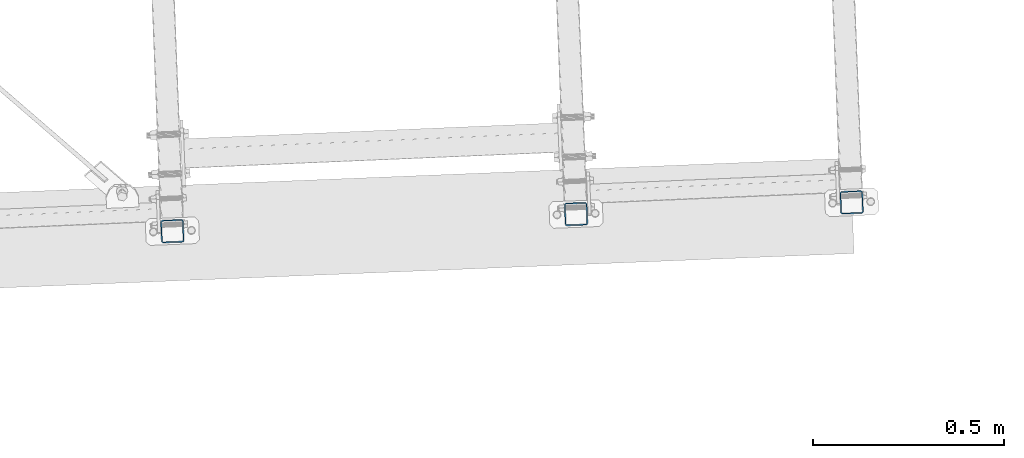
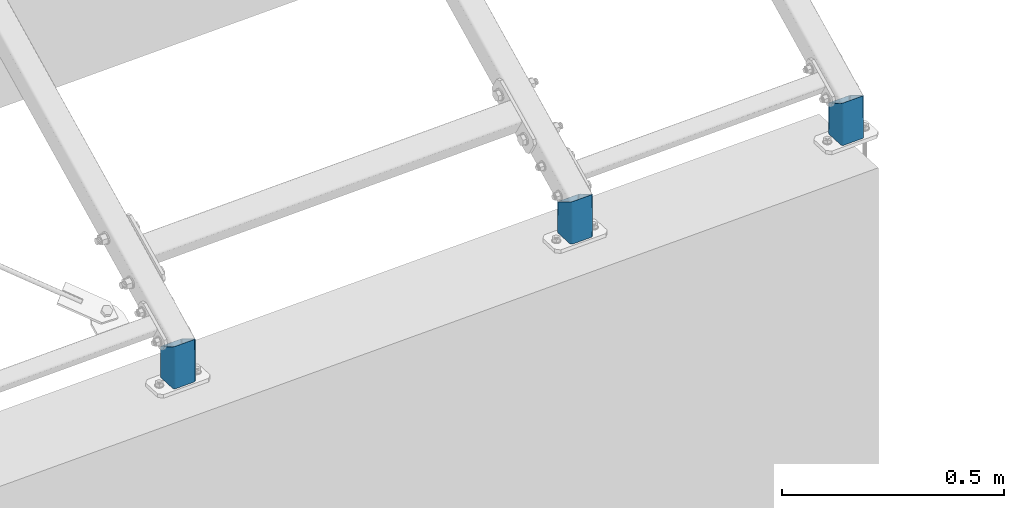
# One storey, part 9 of 288: 3 columns.
"""IFC2X3 building model written with IfcOpenShell, lengths in millimetres."""

from ifc_helpers import new_model, entity, si_unit, converted_unit, frame, origin, origin_with_axes, origin_2d, place, context, project, spatial, hollow_rectangle, extrude, clip, halfspace, material, element, save


model = new_model("IFC2X3")

# Units and contexts
model_context = context("Model", 3, precision=1e-09, world=origin_with_axes())
ifc_project = project(units=[si_unit("LENGTHUNIT", "METRE", prefix="MILLI"), si_unit("AREAUNIT", "SQUARE_METRE"), si_unit("VOLUMEUNIT", "CUBIC_METRE"), converted_unit("PLANEANGLEUNIT", "DEGREE", entity("IfcPlaneAngleMeasure", 0.01745329), si_unit("PLANEANGLEUNIT", "RADIAN"), dimensions=[0, 0, 0, 0, 0, 0, 0])], contexts=[model_context])

# Site, building, storey
site_placement = place(None, origin_with_axes())
site = spatial("IfcSite", under=ifc_project, at=site_placement, Name="Remont ?wietlik?w nad MC w NCPP w Opolu", CompositionType="ELEMENT")
building_placement = place(site_placement, origin_with_axes())
building = spatial("IfcBuilding", under=site, at=building_placement, Name="Konstrukcja 1", CompositionType="ELEMENT")
storey_placement = place(building_placement, origin_with_axes())
storey = spatial("IfcBuildingStorey", under=building, at=storey_placement, Name="Default Storey", CompositionType="ELEMENT", Elevation=0.0)

# Columns
ifc_material = material(Name="S235")
column_1_placement = place(None, frame((8775.981212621, 13890.159133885, -42.426406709), z_axis=(0.0, 0.0, 1.0), x_axis=(0.039392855, -0.9992238, 0.0)))
element("IfcColumn", 1, at=column_1_placement, inside=storey, material=ifc_material, Name="Horizontal_Beam", ObjectType="Horizontal_Beam", context=model_context, shape_type="Clipping", body=[
    clip(clip(extrude(hollow_rectangle(XDim=60.0, YDim=60.0, WallThickness=3.0, InnerFilletRadius=3.0, OuterFilletRadius=6.0, at=origin_2d()), origin(), (0.0, 0.0, 1.0), 201.031776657), halfspace(frame((13533.666643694, -9316.342318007, 52.427406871), z_axis=(0.0, 0.0, 1.0), x_axis=(0.039392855, 0.9992238, 0.0)), True)), halfspace(frame((10124.504306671, -9316.343143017, 5972.553530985), z_axis=(0.498398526, 1.21e-07, -0.866948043), x_axis=(-2.42e-07, 1.0, 0.0)), True)),
])
column_2_placement = place(None, frame((9835.029691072, 13935.062589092, -42.426406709), z_axis=(0.0, 0.0, 1.0), x_axis=(0.039392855, -0.9992238, 0.0)))
element("IfcColumn", 2, at=column_2_placement, inside=storey, material=ifc_material, Name="Horizontal_Beam", ObjectType="Horizontal_Beam", context=model_context, shape_type="Clipping", body=[
    clip(clip(extrude(hollow_rectangle(XDim=60.0, YDim=60.0, WallThickness=3.0, InnerFilletRadius=3.0, OuterFilletRadius=6.0, at=origin_2d()), origin(), (0.0, 0.0, 1.0), 201.029107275), halfspace(frame((13536.816302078, -10376.337638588, 52.427406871), z_axis=(0.0, 0.0, 1.0), x_axis=(0.039392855, 0.9992238, 0.0)), True)), halfspace(frame((10127.98692041, -10376.33846356, 5973.276833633), z_axis=(0.498316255, 1.21e-07, -0.866995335), x_axis=(-2.42e-07, 1.0, 0.0)), True)),
])
column_3_placement = place(None, frame((10557.87941617, 13965.711280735, -42.426406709), z_axis=(0.0, 0.0, 1.0), x_axis=(0.039392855, -0.9992238, 0.0)))
element("IfcColumn", 3, at=column_3_placement, inside=storey, material=ifc_material, Name="Horizontal_Beam", ObjectType="Horizontal_Beam", context=model_context, shape_type="Clipping", body=[
    clip(clip(extrude(hollow_rectangle(XDim=60.0, YDim=60.0, WallThickness=3.0, InnerFilletRadius=3.0, OuterFilletRadius=6.0, at=origin_2d()), origin(), (0.0, 0.0, 1.0), 201.02695428), halfspace(frame((13538.966090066, -11099.833627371, 52.427406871), z_axis=(0.0, 0.0, 1.0), x_axis=(0.039392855, 0.9992238, 0.0)), True)), halfspace(frame((10130.502718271, -11099.834452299, 5973.69099972), z_axis=(0.498249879, 1.21e-07, -0.867033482), x_axis=(-2.42e-07, 1.0, 0.0)), True)),
])

save(model, "model.ifc")
